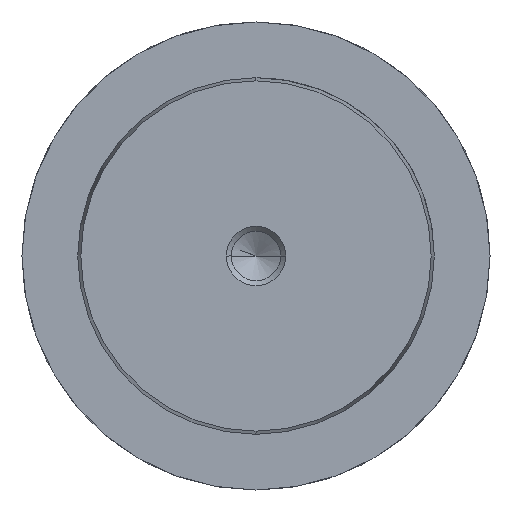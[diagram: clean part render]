
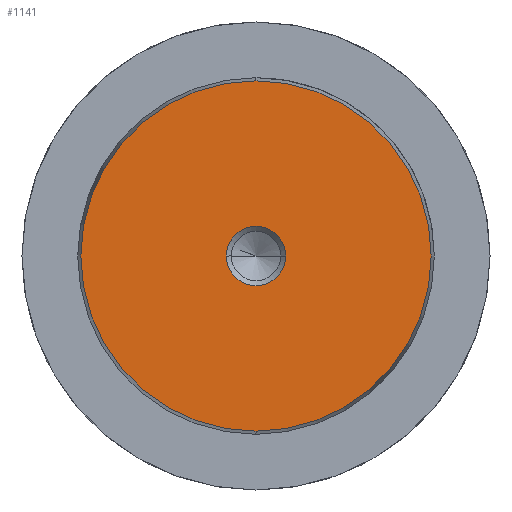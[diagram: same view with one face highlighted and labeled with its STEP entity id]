
A CAD part, left-side view. The second image highlights one B-rep face of the part: STEP entity #1141.
In plain terms, the highlighted planar face has unit normal (-1, 0, 0).
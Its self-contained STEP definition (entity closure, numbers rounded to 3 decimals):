
#1055=CARTESIAN_POINT('Vertex',(0.,0.,-23.578)) ;
#1058=CARTESIAN_POINT('Axis2P3D Location',(0.,0.,0.)) ;
#1062=CARTESIAN_POINT('Vertex',(0.,23.578,0.)) ;
#1065=CARTESIAN_POINT('Axis2P3D Location',(0.,0.,0.)) ;
#1069=CARTESIAN_POINT('Vertex',(0.,0.,23.578)) ;
#1091=CARTESIAN_POINT('Axis2P3D Location',(0.,0.,0.)) ;
#1095=CARTESIAN_POINT('Vertex',(0.,-23.578,0.)) ;
#1098=CARTESIAN_POINT('Axis2P3D Location',(0.,0.,0.)) ;
#1112=CARTESIAN_POINT('Axis2P3D Location',(0.,0.,0.)) ;
#1123=CARTESIAN_POINT('Axis2P3D Location',(0.,0.,0.)) ;
#1127=CARTESIAN_POINT('Vertex',(0.,4.,0.)) ;
#1129=CARTESIAN_POINT('Vertex',(0.,-4.,0.)) ;
#1132=CARTESIAN_POINT('Axis2P3D Location',(0.,0.,0.)) ;
#1059=DIRECTION('Axis2P3D Direction',(1.,-0.,0.)) ;
#1066=DIRECTION('Axis2P3D Direction',(1.,-0.,0.)) ;
#1092=DIRECTION('Axis2P3D Direction',(1.,0.,-0.)) ;
#1099=DIRECTION('Axis2P3D Direction',(1.,0.,-0.)) ;
#1113=DIRECTION('Axis2P3D Direction',(1.,0.,-0.)) ;
#1114=DIRECTION('Axis2P3D XDirection',(-0.,0.,-1.)) ;
#1124=DIRECTION('Axis2P3D Direction',(1.,0.,-0.)) ;
#1133=DIRECTION('Axis2P3D Direction',(1.,0.,-0.)) ;
#1060=AXIS2_PLACEMENT_3D('Circle Axis2P3D',#1058,#1059,$) ;
#1067=AXIS2_PLACEMENT_3D('Circle Axis2P3D',#1065,#1066,$) ;
#1093=AXIS2_PLACEMENT_3D('Circle Axis2P3D',#1091,#1092,$) ;
#1100=AXIS2_PLACEMENT_3D('Circle Axis2P3D',#1098,#1099,$) ;
#1115=AXIS2_PLACEMENT_3D('Plane Axis2P3D',#1112,#1113,#1114) ;
#1125=AXIS2_PLACEMENT_3D('Circle Axis2P3D',#1123,#1124,$) ;
#1134=AXIS2_PLACEMENT_3D('Circle Axis2P3D',#1132,#1133,$) ;
#1118=ORIENTED_EDGE('',*,*,#1064,.F.) ;
#1119=ORIENTED_EDGE('',*,*,#1102,.F.) ;
#1120=ORIENTED_EDGE('',*,*,#1097,.F.) ;
#1121=ORIENTED_EDGE('',*,*,#1071,.F.) ;
#1138=ORIENTED_EDGE('',*,*,#1131,.T.) ;
#1139=ORIENTED_EDGE('',*,*,#1136,.T.) ;
#1140=FACE_BOUND('',#1137,.T.) ;
#1141=ADVANCED_FACE('719-48x315',(#1122,#1140),#1116,.F.) ;
#1061=CIRCLE('generated circle',#1060,23.578) ;
#1068=CIRCLE('generated circle',#1067,23.578) ;
#1094=CIRCLE('generated circle',#1093,23.578) ;
#1101=CIRCLE('generated circle',#1100,23.578) ;
#1126=CIRCLE('generated circle',#1125,4.) ;
#1135=CIRCLE('generated circle',#1134,4.) ;
#1064=EDGE_CURVE('',#1056,#1063,#1061,.T.) ;
#1071=EDGE_CURVE('',#1063,#1070,#1068,.T.) ;
#1097=EDGE_CURVE('',#1070,#1096,#1094,.T.) ;
#1102=EDGE_CURVE('',#1096,#1056,#1101,.T.) ;
#1131=EDGE_CURVE('',#1128,#1130,#1126,.T.) ;
#1136=EDGE_CURVE('',#1130,#1128,#1135,.T.) ;
#1117=EDGE_LOOP('',(#1118,#1119,#1120,#1121)) ;
#1137=EDGE_LOOP('',(#1138,#1139)) ;
#1122=FACE_OUTER_BOUND('',#1117,.T.) ;
#1116=PLANE('Plane',#1115) ;
#1056=VERTEX_POINT('',#1055) ;
#1063=VERTEX_POINT('',#1062) ;
#1070=VERTEX_POINT('',#1069) ;
#1096=VERTEX_POINT('',#1095) ;
#1128=VERTEX_POINT('',#1127) ;
#1130=VERTEX_POINT('',#1129) ;
